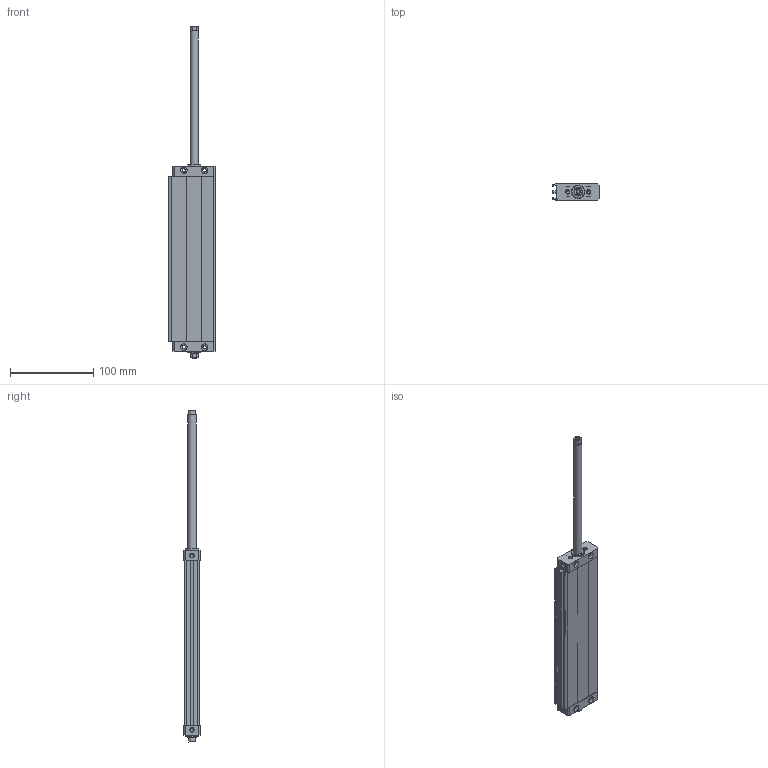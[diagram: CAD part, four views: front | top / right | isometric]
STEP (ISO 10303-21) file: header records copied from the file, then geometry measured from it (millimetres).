
FILE_DESCRIPTION((''),'2;1');
FILE_NAME('I:\Area Tecnica\Disegni\VARIE-3D\Componenti\1370 - CPO\1370_##_0000_03\1370_25_0160_03-01.iam.step','2010-12-16T10:53:23',(''),(''),'Autodesk Inventor 2011','Autodesk Inventor 2011','');
FILE_SCHEMA(('AUTOMOTIVE_DESIGN { 1 0 10303 214 1 1 1 1 }'));
Length unit declared in the file: millimetre
Products named in the file (5): 1370_25_0160_03-01; 1370_05_25_0000; 1370_06_25_0160; 1370_08_25_0000; 1370_3_25_0160
Assembly tree (4 placements, depth 2):
  1370_25_0160_03-01
    1370_05_25_0000
    1370_06_25_0160
    1370_08_25_0000
    1370_3_25_0160
Bounding box: 56.25 x 20 x 398 mm (x, y, z)
Volume: 160717.1 mm3; surface area: 81157.2 mm2
Topology: 4 solids, 4 shells, 158 faces, 378 edges, 238 vertices
Faces by surface type: plane 90, cylinder 48, cone 20
Full cylindrical faces by diameter (mm): 4.2 x22, 5.2 x2, 8 x8, 9.5 x2, 10 x4, 16 x2
Entity records: 4480 total; most frequent: DIRECTION 750, CARTESIAN_POINT 695, ORIENTED_EDGE 608, EDGE_CURVE 304, AXIS2_PLACEMENT_3D 279, EDGE_LOOP 250, VERTEX_POINT 224, VECTOR 192
